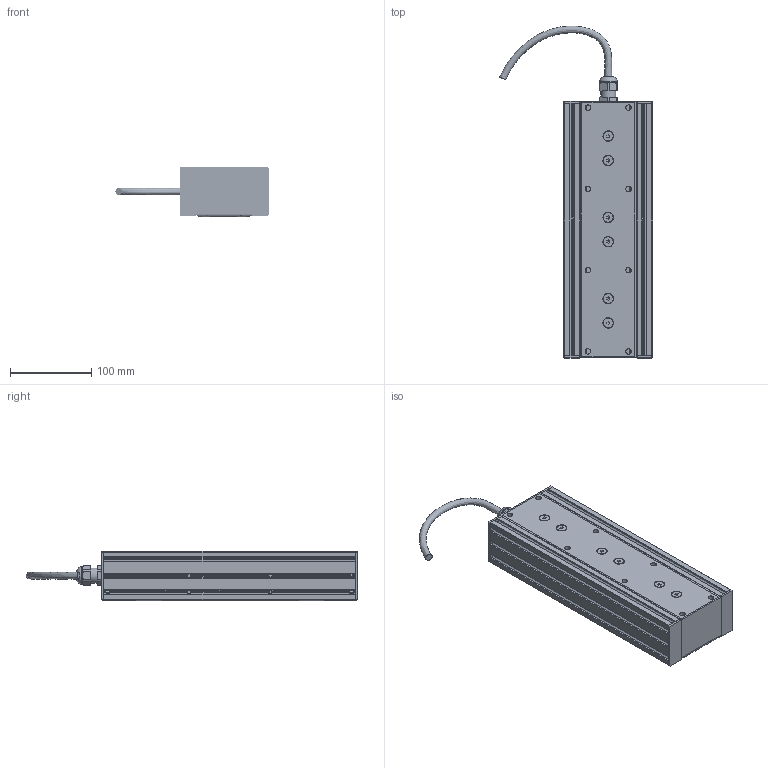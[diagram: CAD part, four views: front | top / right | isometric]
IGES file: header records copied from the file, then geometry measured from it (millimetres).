
Global section: file name: ELFQ-FA-PR003; native system: unknown; preprocessor: unknown; author: unknown; organization: unknown; date: 20240523.153120; units: millimetre
Bounding box: 188.37 x 408.54 x 61 mm (x, y, z)
Volume: 840715.8 mm3; surface area: 535031.7 mm2
Topology: 24 solids, 24 shells, 2125 faces, 11881 edges, 10846 vertices
Faces by surface type: bspline 1554, revolution 571
